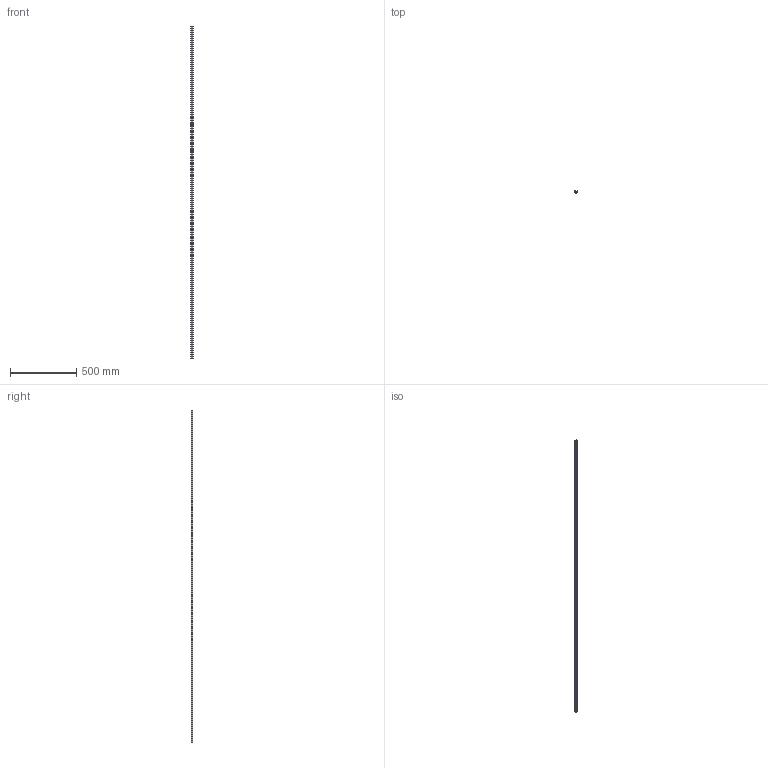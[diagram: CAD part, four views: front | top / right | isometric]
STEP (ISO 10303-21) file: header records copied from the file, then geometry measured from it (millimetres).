
FILE_DESCRIPTION (( 'STEP AP203' ), '1' );
FILE_NAME ('ChannelLine_T1_24.STEP', '2024-11-29T08:37:10', ( '' ), ( '' ), 'SwSTEP 2.0', 'SolidWorks 2023', '' );
FILE_SCHEMA (( 'CONFIG_CONTROL_DESIGN' ));
Length unit declared in the file: millimetre
Products named in the file (1): ChannelLine_T1_24
Bounding box: 16.97 x 11.5 x 2500 mm (x, y, z)
Volume: 131808.6 mm3; surface area: 270676.4 mm2
Topology: 1 solids, 1 shells, 120 faces, 354 edges, 236 vertices
Faces by surface type: cylinder 65, plane 55
Entity records: 4125 total; most frequent: DIRECTION 726, CARTESIAN_POINT 711, ORIENTED_EDGE 708, EDGE_CURVE 354, AXIS2_PLACEMENT_3D 251, VERTEX_POINT 236, LINE 224, VECTOR 224
